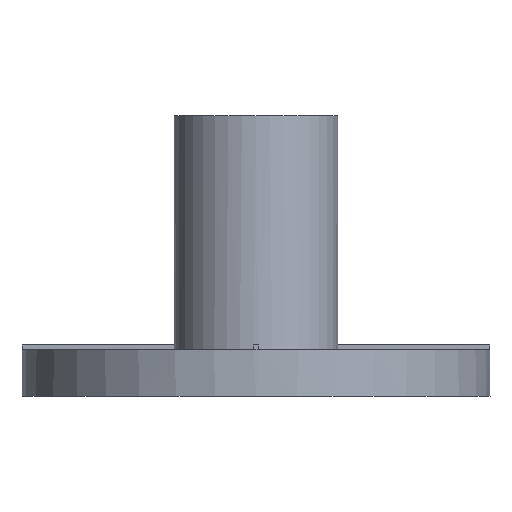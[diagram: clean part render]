
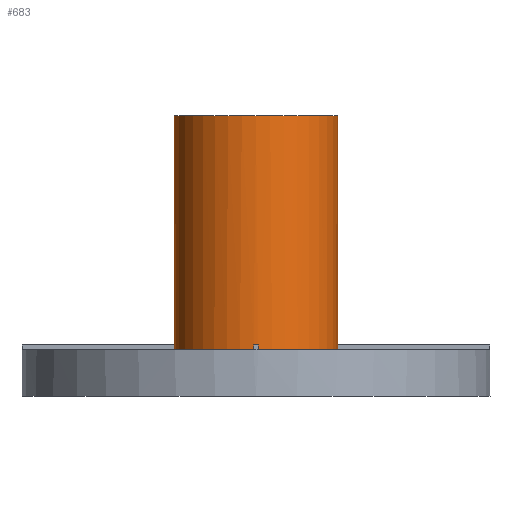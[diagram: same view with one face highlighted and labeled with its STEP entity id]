
A CAD part, front view. The second image highlights one B-rep face of the part: STEP entity #683.
In plain terms, the highlighted cylindrical face has radius 0.445 mm (diameter 0.889 mm), a partial arc.
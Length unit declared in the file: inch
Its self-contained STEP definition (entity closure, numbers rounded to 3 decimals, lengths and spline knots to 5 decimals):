
#40=DIRECTION('',(0.,0.,1.));
#41=VECTOR('',#40,0.049);
#42=CARTESIAN_POINT('',(0.0175,0.,0.011));
#43=LINE('',#42,#41);
#80=CARTESIAN_POINT('',(0.,0.,0.01));
#81=DIRECTION('',(0.,0.,1.));
#82=DIRECTION('',(-1.,-0.029,0.));
#83=AXIS2_PLACEMENT_3D('',#80,#81,#82);
#98=CARTESIAN_POINT('',(0.,0.,0.01));
#99=DIRECTION('',(0.,0.,1.));
#100=DIRECTION('',(0.029,-1.,0.));
#101=AXIS2_PLACEMENT_3D('',#98,#99,#100);
#137=CARTESIAN_POINT('',(0.,0.,0.011));
#138=DIRECTION('',(0.,0.,1.));
#139=DIRECTION('',(1.,-0.029,0.));
#140=AXIS2_PLACEMENT_3D('',#137,#138,#139);
#164=CARTESIAN_POINT('',(0.,0.,0.011));
#165=DIRECTION('',(0.,0.,1.));
#166=DIRECTION('',(-1.,0.,0.));
#167=AXIS2_PLACEMENT_3D('',#164,#165,#166);
#181=CARTESIAN_POINT('',(0.,0.,0.011));
#182=DIRECTION('',(0.,0.,1.));
#183=DIRECTION('',(-0.029,-1.,0.));
#184=AXIS2_PLACEMENT_3D('',#181,#182,#183);
#235=DIRECTION('',(0.,0.,1.));
#236=VECTOR('',#235,0.001);
#237=CARTESIAN_POINT('',(-0.0005,-0.01749,0.01));
#238=LINE('',#237,#236);
#239=DIRECTION('',(0.,0.,1.));
#240=VECTOR('',#239,0.049);
#241=CARTESIAN_POINT('',(-0.0175,0.,0.011));
#242=LINE('',#241,#240);
#243=DIRECTION('',(0.,0.,1.));
#244=VECTOR('',#243,0.001);
#245=CARTESIAN_POINT('',(-0.01749,-0.0005,0.01));
#246=LINE('',#245,#244);
#256=CARTESIAN_POINT('',(0.,0.,0.06));
#257=DIRECTION('',(0.,0.,1.));
#258=DIRECTION('',(-1.,0.,0.));
#259=AXIS2_PLACEMENT_3D('',#256,#257,#258);
#261=DIRECTION('',(0.,0.,1.));
#262=VECTOR('',#261,0.001);
#263=CARTESIAN_POINT('',(0.01749,-0.0005,0.01));
#264=LINE('',#263,#262);
#265=DIRECTION('',(0.,0.,1.));
#266=VECTOR('',#265,0.001);
#267=CARTESIAN_POINT('',(0.0005,-0.01749,0.01));
#268=LINE('',#267,#266);
#315=CARTESIAN_POINT('',(0.0175,0.,0.06));
#316=CARTESIAN_POINT('',(-0.0175,0.,0.06));
#317=VERTEX_POINT('',#315);
#318=VERTEX_POINT('',#316);
#327=CARTESIAN_POINT('',(-0.01749,-0.0005,0.01));
#328=CARTESIAN_POINT('',(-0.0005,-0.01749,0.01));
#329=VERTEX_POINT('',#327);
#330=VERTEX_POINT('',#328);
#331=CARTESIAN_POINT('',(0.0005,-0.01749,0.01));
#332=CARTESIAN_POINT('',(0.01749,-0.0005,0.01));
#333=VERTEX_POINT('',#331);
#334=VERTEX_POINT('',#332);
#335=CARTESIAN_POINT('',(0.0175,0.,0.011));
#337=VERTEX_POINT('',#335);
#344=CARTESIAN_POINT('',(-0.0175,0.,0.011));
#346=VERTEX_POINT('',#344);
#347=CARTESIAN_POINT('',(-0.01749,-0.0005,0.011));
#348=VERTEX_POINT('',#347);
#349=CARTESIAN_POINT('',(-0.0005,-0.01749,0.011));
#350=CARTESIAN_POINT('',(0.0005,-0.01749,0.011));
#351=VERTEX_POINT('',#349);
#352=VERTEX_POINT('',#350);
#353=CARTESIAN_POINT('',(0.01749,-0.0005,0.011));
#354=VERTEX_POINT('',#353);
#660=CARTESIAN_POINT('',(0.,0.,0.01));
#661=DIRECTION('',(0.,0.,1.));
#662=DIRECTION('',(1.,0.,0.));
#663=AXIS2_PLACEMENT_3D('',#660,#661,#662);
#664=CYLINDRICAL_SURFACE('',#663,0.0175);
#665=ORIENTED_EDGE('',*,*,#485,.F.);
#667=ORIENTED_EDGE('',*,*,#666,.T.);
#668=ORIENTED_EDGE('',*,*,#563,.F.);
#669=ORIENTED_EDGE('',*,*,#437,.T.);
#671=ORIENTED_EDGE('',*,*,#670,.T.);
#672=ORIENTED_EDGE('',*,*,#433,.F.);
#673=ORIENTED_EDGE('',*,*,#538,.F.);
#675=ORIENTED_EDGE('',*,*,#674,.F.);
#676=ORIENTED_EDGE('',*,*,#501,.F.);
#678=ORIENTED_EDGE('',*,*,#677,.T.);
#679=ORIENTED_EDGE('',*,*,#577,.F.);
#680=ORIENTED_EDGE('',*,*,#652,.F.);
#681=EDGE_LOOP('',(#665,#667,#668,#669,#671,#672,#673,#675,#676,#678,#679,
#680));
#682=FACE_OUTER_BOUND('',#681,.F.);
#683=ADVANCED_FACE('',(#682),#664,.T.);
#84=CIRCLE('',#83,0.0175);
#102=CIRCLE('',#101,0.0175);
#141=CIRCLE('',#140,0.0175);
#168=CIRCLE('',#167,0.0175);
#185=CIRCLE('',#184,0.0175);
#260=CIRCLE('',#259,0.0175);
#433=EDGE_CURVE('',#337,#317,#43,.T.);
#437=EDGE_CURVE('',#346,#318,#242,.T.);
#485=EDGE_CURVE('',#329,#330,#84,.T.);
#501=EDGE_CURVE('',#333,#334,#102,.T.);
#538=EDGE_CURVE('',#354,#337,#141,.T.);
#563=EDGE_CURVE('',#346,#348,#168,.T.);
#577=EDGE_CURVE('',#351,#352,#185,.T.);
#652=EDGE_CURVE('',#330,#351,#238,.T.);
#666=EDGE_CURVE('',#329,#348,#246,.T.);
#670=EDGE_CURVE('',#318,#317,#260,.T.);
#674=EDGE_CURVE('',#334,#354,#264,.T.);
#677=EDGE_CURVE('',#333,#352,#268,.T.);
